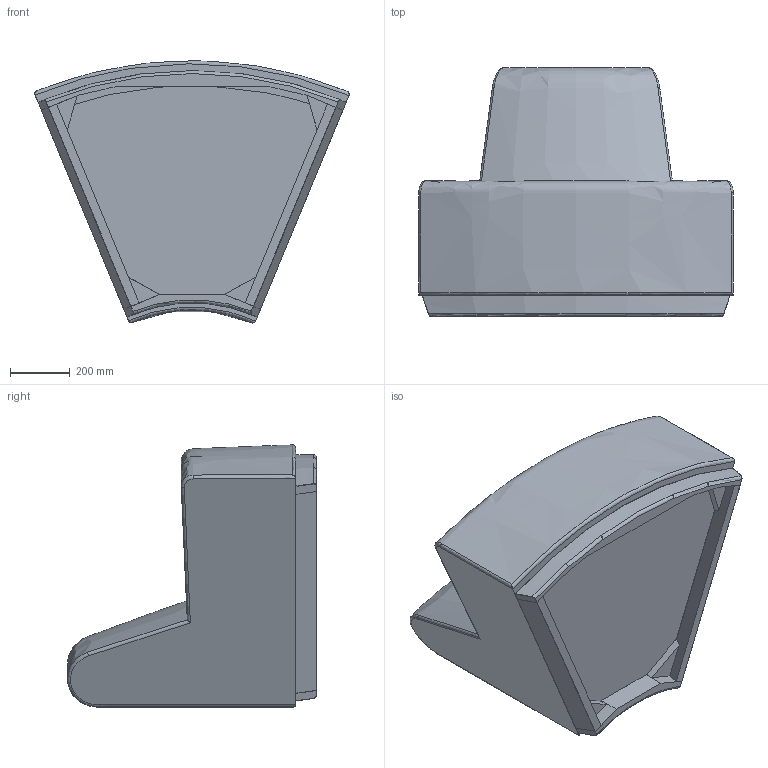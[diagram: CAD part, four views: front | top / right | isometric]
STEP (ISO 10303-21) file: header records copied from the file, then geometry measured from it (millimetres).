
FILE_DESCRIPTION(/* description */ (''),/* implementation_level */ '2;1');
FILE_NAME(/* name */ '1OH-0006 - Ohio Curved Chair - Wide Front - STEP (Simplified).stp',/* time_stamp */ '2025-11-12T12:55:13Z',/* author */ ('craig.ferris'),/* organization */ (''),/* preprocessor_version */ 'ST-DEVELOPER v20',/* originating_system */ 'Autodesk Inventor 2025',/* authorisation */ '');
FILE_SCHEMA (('AUTOMOTIVE_DESIGN { 1 0 10303 214 3 1 1 }'));
Length unit declared in the file: millimetre
Products named in the file (1): 1OH-0006 - Ohio Curved Chair - Wide Front (Simplified)
Bounding box: 1050.9 x 832.4 x 876.54 mm (x, y, z)
Volume: 297082408 mm3; surface area: 4611370.6 mm2
Topology: 10 solids, 10 shells, 112 faces, 261 edges, 165 vertices
Faces by surface type: plane 55, bspline 27, cylinder 22, torus 4, sphere 4
Entity records: 7549 total; most frequent: CARTESIAN_POINT 5088, ORIENTED_EDGE 514, DIRECTION 458, EDGE_CURVE 257, VERTEX_POINT 165, AXIS2_PLACEMENT_3D 164, LINE 130, VECTOR 130
